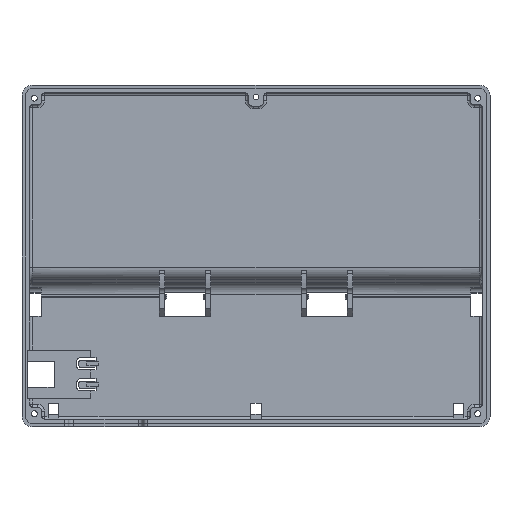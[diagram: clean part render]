
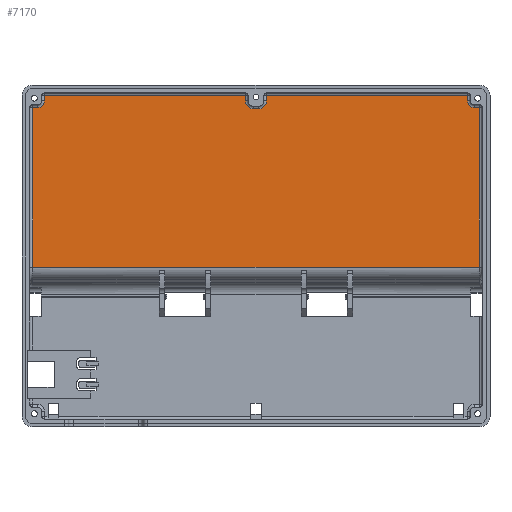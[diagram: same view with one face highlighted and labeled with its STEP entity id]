
A CAD part, front view. The second image highlights one B-rep face of the part: STEP entity #7170.
In plain terms, the highlighted planar face has unit normal (0, -1, 0).
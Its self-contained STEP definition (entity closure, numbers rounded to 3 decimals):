
#1109=DIRECTION('',(1.,0.,0.));
#1110=VECTOR('',#1109,170.);
#1111=CARTESIAN_POINT('',(-85.,-25.915,
-4.274));
#1112=LINE('',#1111,#1110);
#1181=DIRECTION('',(0.,0.,-1.));
#1182=VECTOR('',#1181,60.774);
#1183=CARTESIAN_POINT('',(85.,-25.915,56.5));
#1184=LINE('',#1183,#1182);
#1185=DIRECTION('',(0.,0.,-1.));
#1186=VECTOR('',#1185,60.774);
#1187=CARTESIAN_POINT('',(-85.,-25.915,56.5));
#1188=LINE('',#1187,#1186);
#1189=DIRECTION('',(-1.,0.,0.));
#1190=VECTOR('',#1189,2.);
#1191=CARTESIAN_POINT('',(-83.,-25.915,56.5));
#1192=LINE('',#1191,#1190);
#1193=CARTESIAN_POINT('',(-83.,-25.915,59.));
#1194=DIRECTION('',(0.,1.,0.));
#1195=DIRECTION('',(1.,0.,0.));
#1196=AXIS2_PLACEMENT_3D('',#1193,#1194,#1195);
#1198=DIRECTION('',(0.,0.,-1.));
#1199=VECTOR('',#1198,2.);
#1200=CARTESIAN_POINT('',(-80.5,-25.915,61.));
#1201=LINE('',#1200,#1199);
#1202=DIRECTION('',(-1.,0.,0.));
#1203=VECTOR('',#1202,76.5);
#1204=CARTESIAN_POINT('',(-4.,-25.915,61.));
#1205=LINE('',#1204,#1203);
#1206=DIRECTION('',(0.,0.,1.));
#1207=VECTOR('',#1206,2.);
#1208=CARTESIAN_POINT('',(-4.,-25.915,59.));
#1209=LINE('',#1208,#1207);
#1210=CARTESIAN_POINT('',(-1.,-25.915,59.));
#1211=DIRECTION('',(0.,1.,0.));
#1212=DIRECTION('',(0.,0.,-1.));
#1213=AXIS2_PLACEMENT_3D('',#1210,#1211,#1212);
#1215=DIRECTION('',(-1.,0.,0.));
#1216=VECTOR('',#1215,2.);
#1217=CARTESIAN_POINT('',(1.,-25.915,56.));
#1218=LINE('',#1217,#1216);
#1219=CARTESIAN_POINT('',(1.,-25.915,59.));
#1220=DIRECTION('',(0.,1.,0.));
#1221=DIRECTION('',(1.,0.,0.));
#1222=AXIS2_PLACEMENT_3D('',#1219,#1220,#1221);
#1224=DIRECTION('',(0.,0.,-1.));
#1225=VECTOR('',#1224,2.);
#1226=CARTESIAN_POINT('',(4.,-25.915,61.));
#1227=LINE('',#1226,#1225);
#1228=DIRECTION('',(-1.,0.,0.));
#1229=VECTOR('',#1228,76.5);
#1230=CARTESIAN_POINT('',(80.5,-25.915,61.));
#1231=LINE('',#1230,#1229);
#1232=DIRECTION('',(0.,0.,1.));
#1233=VECTOR('',#1232,2.);
#1234=CARTESIAN_POINT('',(80.5,-25.915,59.));
#1235=LINE('',#1234,#1233);
#1236=CARTESIAN_POINT('',(83.,-25.915,59.));
#1237=DIRECTION('',(0.,1.,0.));
#1238=DIRECTION('',(0.,0.,-1.));
#1239=AXIS2_PLACEMENT_3D('',#1236,#1237,#1238);
#1241=DIRECTION('',(-1.,0.,0.));
#1242=VECTOR('',#1241,2.);
#1243=CARTESIAN_POINT('',(85.,-25.915,56.5));
#1244=LINE('',#1243,#1242);
#5846=CARTESIAN_POINT('',(85.,-25.915,
-4.274));
#5847=VERTEX_POINT('',#5846);
#5854=CARTESIAN_POINT('',(83.,-25.915,56.5));
#5855=CARTESIAN_POINT('',(80.5,-25.915,59.));
#5856=VERTEX_POINT('',#5854);
#5857=VERTEX_POINT('',#5855);
#5862=CARTESIAN_POINT('',(4.,-25.915,59.));
#5863=CARTESIAN_POINT('',(1.,-25.915,56.));
#5864=VERTEX_POINT('',#5862);
#5865=VERTEX_POINT('',#5863);
#5868=CARTESIAN_POINT('',(-1.,-25.915,56.));
#5869=VERTEX_POINT('',#5868);
#5872=CARTESIAN_POINT('',(-4.,-25.915,59.));
#5873=VERTEX_POINT('',#5872);
#5878=CARTESIAN_POINT('',(-80.5,-25.915,59.));
#5879=CARTESIAN_POINT('',(-83.,-25.915,56.5));
#5880=VERTEX_POINT('',#5878);
#5881=VERTEX_POINT('',#5879);
#5896=CARTESIAN_POINT('',(-85.,-25.915,
-4.274));
#5897=VERTEX_POINT('',#5896);
#5943=CARTESIAN_POINT('',(80.5,-25.915,61.));
#5945=VERTEX_POINT('',#5943);
#5953=CARTESIAN_POINT('',(-4.,-25.915,61.));
#5955=VERTEX_POINT('',#5953);
#5963=CARTESIAN_POINT('',(4.,-25.915,61.));
#5965=VERTEX_POINT('',#5963);
#5973=CARTESIAN_POINT('',(-80.5,-25.915,61.));
#5975=VERTEX_POINT('',#5973);
#5983=CARTESIAN_POINT('',(-85.,-25.915,56.5));
#5985=VERTEX_POINT('',#5983);
#6033=CARTESIAN_POINT('',(85.,-25.915,56.5));
#6035=VERTEX_POINT('',#6033);
#7134=CARTESIAN_POINT('',(89.,-25.915,
-5.332));
#7135=DIRECTION('',(0.,-1.,0.));
#7136=DIRECTION('',(0.,0.,-1.));
#7137=AXIS2_PLACEMENT_3D('',#7134,#7135,#7136);
#7138=PLANE('',#7137);
#7139=ORIENTED_EDGE('',*,*,#7040,.T.);
#7140=ORIENTED_EDGE('',*,*,#7010,.F.);
#7142=ORIENTED_EDGE('',*,*,#7141,.F.);
#7144=ORIENTED_EDGE('',*,*,#7143,.F.);
#7146=ORIENTED_EDGE('',*,*,#7145,.F.);
#7148=ORIENTED_EDGE('',*,*,#7147,.F.);
#7150=ORIENTED_EDGE('',*,*,#7149,.F.);
#7152=ORIENTED_EDGE('',*,*,#7151,.F.);
#7154=ORIENTED_EDGE('',*,*,#7153,.F.);
#7156=ORIENTED_EDGE('',*,*,#7155,.F.);
#7158=ORIENTED_EDGE('',*,*,#7157,.F.);
#7160=ORIENTED_EDGE('',*,*,#7159,.F.);
#7162=ORIENTED_EDGE('',*,*,#7161,.F.);
#7164=ORIENTED_EDGE('',*,*,#7163,.F.);
#7166=ORIENTED_EDGE('',*,*,#7165,.F.);
#7167=ORIENTED_EDGE('',*,*,#7064,.F.);
#7168=EDGE_LOOP('',(#7139,#7140,#7142,#7144,#7146,#7148,#7150,#7152,#7154,#7156,
#7158,#7160,#7162,#7164,#7166,#7167));
#7169=FACE_OUTER_BOUND('',#7168,.F.);
#1197=CIRCLE('',#1196,2.5);
#1214=CIRCLE('',#1213,3.);
#1223=CIRCLE('',#1222,3.);
#1240=CIRCLE('',#1239,2.5);
#7010=EDGE_CURVE('',#5897,#5847,#1112,.T.);
#7040=EDGE_CURVE('',#6035,#5847,#1184,.T.);
#7064=EDGE_CURVE('',#6035,#5856,#1244,.T.);
#7141=EDGE_CURVE('',#5985,#5897,#1188,.T.);
#7143=EDGE_CURVE('',#5881,#5985,#1192,.T.);
#7145=EDGE_CURVE('',#5880,#5881,#1197,.T.);
#7147=EDGE_CURVE('',#5975,#5880,#1201,.T.);
#7149=EDGE_CURVE('',#5955,#5975,#1205,.T.);
#7151=EDGE_CURVE('',#5873,#5955,#1209,.T.);
#7153=EDGE_CURVE('',#5869,#5873,#1214,.T.);
#7155=EDGE_CURVE('',#5865,#5869,#1218,.T.);
#7157=EDGE_CURVE('',#5864,#5865,#1223,.T.);
#7159=EDGE_CURVE('',#5965,#5864,#1227,.T.);
#7161=EDGE_CURVE('',#5945,#5965,#1231,.T.);
#7163=EDGE_CURVE('',#5857,#5945,#1235,.T.);
#7165=EDGE_CURVE('',#5856,#5857,#1240,.T.);
#7170=ADVANCED_FACE('',(#7169),#7138,.T.);
